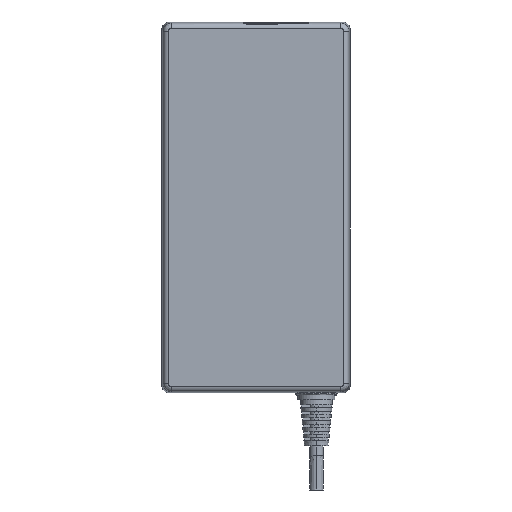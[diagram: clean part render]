
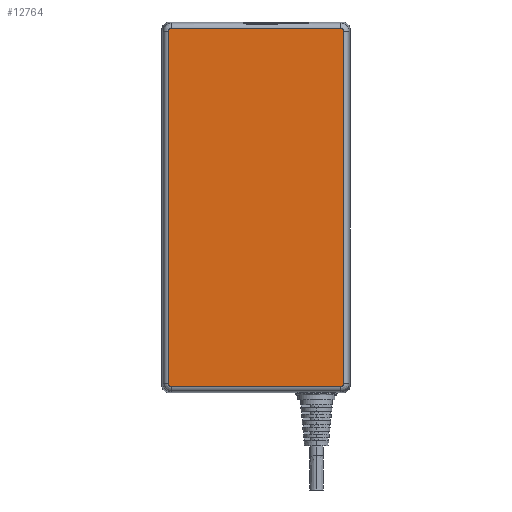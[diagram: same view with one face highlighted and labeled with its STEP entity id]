
A CAD part, front view. The second image highlights one B-rep face of the part: STEP entity #12764.
In plain terms, the highlighted planar face has unit normal (0, -1, 0).
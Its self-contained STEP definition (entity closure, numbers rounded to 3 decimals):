
#8987=DIRECTION('',(1.,0.,0.));
#8988=VECTOR('',#8987,64.054);
#8989=CARTESIAN_POINT('',(-32.027,-11.,-67.526));
#8990=LINE('',#8989,#8988);
#9520=CARTESIAN_POINT('',(33.026,-11.,-66.527));
#9521=CARTESIAN_POINT('',(33.026,-11.,-66.635));
#9522=CARTESIAN_POINT('',(32.992,-11.,-66.841));
#9523=CARTESIAN_POINT('',(32.848,-11.,-67.125));
#9524=CARTESIAN_POINT('',(32.625,-11.,-67.348));
#9525=CARTESIAN_POINT('',(32.34,-11.,-67.492));
#9526=CARTESIAN_POINT('',(32.135,-11.,-67.526));
#9527=CARTESIAN_POINT('',(32.027,-11.,-67.526));
#9529=CARTESIAN_POINT('',(-32.027,-11.,-67.526));
#9530=CARTESIAN_POINT('',(-32.135,-11.,-67.526));
#9531=CARTESIAN_POINT('',(-32.341,-11.,-67.492));
#9532=CARTESIAN_POINT('',(-32.625,-11.,-67.348));
#9533=CARTESIAN_POINT('',(-32.848,-11.,-67.125));
#9534=CARTESIAN_POINT('',(-32.992,-11.,-66.84));
#9535=CARTESIAN_POINT('',(-33.026,-11.,-66.635));
#9536=CARTESIAN_POINT('',(-33.026,-11.,-66.527));
#9538=CARTESIAN_POINT('',(-33.026,-11.,
66.527));
#9539=CARTESIAN_POINT('',(-33.026,-11.,
66.635));
#9540=CARTESIAN_POINT('',(-32.992,-11.,66.841));
#9541=CARTESIAN_POINT('',(-32.848,-11.,67.125));
#9542=CARTESIAN_POINT('',(-32.625,-11.,67.348));
#9543=CARTESIAN_POINT('',(-32.34,-11.,67.492));
#9544=CARTESIAN_POINT('',(-32.135,-11.,
67.526));
#9545=CARTESIAN_POINT('',(-32.027,-11.,
67.526));
#9547=CARTESIAN_POINT('',(32.027,-11.,67.526));
#9548=CARTESIAN_POINT('',(32.135,-11.,67.526));
#9549=CARTESIAN_POINT('',(32.341,-11.,67.492));
#9550=CARTESIAN_POINT('',(32.625,-11.,67.348));
#9551=CARTESIAN_POINT('',(32.848,-11.,67.125));
#9552=CARTESIAN_POINT('',(32.992,-11.,66.84));
#9553=CARTESIAN_POINT('',(33.026,-11.,66.635));
#9554=CARTESIAN_POINT('',(33.026,-11.,66.527));
#9570=DIRECTION('',(0.,0.,-1.));
#9571=VECTOR('',#9570,133.054);
#9572=CARTESIAN_POINT('',(-33.026,-11.,
66.527));
#9573=LINE('',#9572,#9571);
#9649=DIRECTION('',(0.,0.,1.));
#9650=VECTOR('',#9649,133.054);
#9651=CARTESIAN_POINT('',(33.026,-11.,-66.527));
#9652=LINE('',#9651,#9650);
#9667=DIRECTION('',(-1.,0.,0.));
#9668=VECTOR('',#9667,64.054);
#9669=CARTESIAN_POINT('',(32.027,-11.,67.526));
#9670=LINE('',#9669,#9668);
#10911=CARTESIAN_POINT('',(-32.027,-11.,-67.526));
#10912=VERTEX_POINT('',#10911);
#10913=CARTESIAN_POINT('',(32.027,-11.,-67.526));
#10914=VERTEX_POINT('',#10913);
#11151=CARTESIAN_POINT('',(33.026,-11.,-66.527));
#11152=VERTEX_POINT('',#11151);
#11153=CARTESIAN_POINT('',(33.026,-11.,
66.527));
#11154=VERTEX_POINT('',#11153);
#11155=VERTEX_POINT('',#9536);
#11156=CARTESIAN_POINT('',(-33.026,-11.,
66.527));
#11157=VERTEX_POINT('',#11156);
#11158=VERTEX_POINT('',#9545);
#11159=CARTESIAN_POINT('',(32.027,-11.,
67.526));
#11160=VERTEX_POINT('',#11159);
#12743=CARTESIAN_POINT('',(-35.5,-11.,70.));
#12744=DIRECTION('',(0.,1.,0.));
#12745=DIRECTION('',(-1.,0.,0.));
#12746=AXIS2_PLACEMENT_3D('',#12743,#12744,#12745);
#12747=PLANE('',#12746);
#12748=ORIENTED_EDGE('',*,*,#12735,.T.);
#12749=ORIENTED_EDGE('',*,*,#11551,.F.);
#12751=ORIENTED_EDGE('',*,*,#12750,.T.);
#12753=ORIENTED_EDGE('',*,*,#12752,.F.);
#12755=ORIENTED_EDGE('',*,*,#12754,.T.);
#12757=ORIENTED_EDGE('',*,*,#12756,.F.);
#12759=ORIENTED_EDGE('',*,*,#12758,.T.);
#12761=ORIENTED_EDGE('',*,*,#12760,.F.);
#12762=EDGE_LOOP('',(#12748,#12749,#12751,#12753,#12755,#12757,#12759,#12761));
#12763=FACE_OUTER_BOUND('',#12762,.F.);
#12764=ADVANCED_FACE('',(#12763),#12747,.F.);
#9528=B_SPLINE_CURVE_WITH_KNOTS('',3,(#9520,#9521,#9522,#9523,#9524,#9525,#9526,
#9527),.UNSPECIFIED.,.F.,.F.,(4,1,1,1,1,4),(0.,0.2,0.4,0.6,0.8,1.),
.UNSPECIFIED.);
#9537=B_SPLINE_CURVE_WITH_KNOTS('',3,(#9529,#9530,#9531,#9532,#9533,#9534,#9535,
#9536),.UNSPECIFIED.,.F.,.F.,(4,1,1,1,1,4),(0.,0.2,0.4,0.6,0.8,1.),
.UNSPECIFIED.);
#9546=B_SPLINE_CURVE_WITH_KNOTS('',3,(#9538,#9539,#9540,#9541,#9542,#9543,#9544,
#9545),.UNSPECIFIED.,.F.,.F.,(4,1,1,1,1,4),(0.,0.2,0.4,0.6,0.8,1.),
.UNSPECIFIED.);
#9555=B_SPLINE_CURVE_WITH_KNOTS('',3,(#9547,#9548,#9549,#9550,#9551,#9552,#9553,
#9554),.UNSPECIFIED.,.F.,.F.,(4,1,1,1,1,4),(0.,0.2,0.4,0.6,0.8,1.),
.UNSPECIFIED.);
#11551=EDGE_CURVE('',#10912,#10914,#8990,.T.);
#12735=EDGE_CURVE('',#11152,#10914,#9528,.T.);
#12750=EDGE_CURVE('',#10912,#11155,#9537,.T.);
#12752=EDGE_CURVE('',#11157,#11155,#9573,.T.);
#12754=EDGE_CURVE('',#11157,#11158,#9546,.T.);
#12756=EDGE_CURVE('',#11160,#11158,#9670,.T.);
#12758=EDGE_CURVE('',#11160,#11154,#9555,.T.);
#12760=EDGE_CURVE('',#11152,#11154,#9652,.T.);
